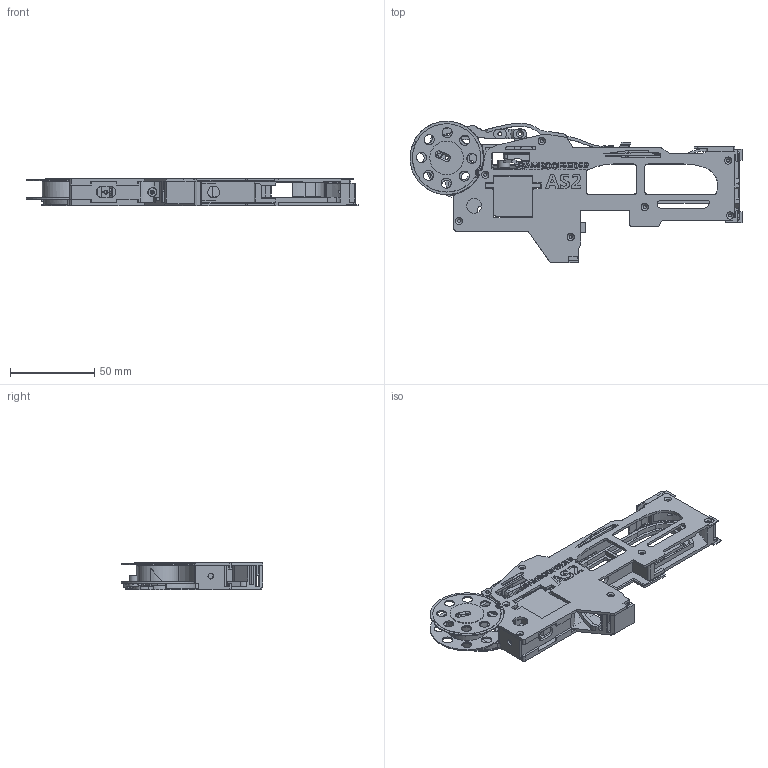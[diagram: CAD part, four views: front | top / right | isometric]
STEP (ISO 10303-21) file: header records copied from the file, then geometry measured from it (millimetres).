
FILE_DESCRIPTION (( 'STEP AP203' ), '1' );
FILE_NAME ('PPBF-AS2-12-V1.0-ASM01.STEP', '2026-03-18T04:36:17', ( '' ), ( '' ), 'SwSTEP 2.0', 'SolidWorks 2020', '' );
FILE_SCHEMA (( 'CONFIG_CONTROL_DESIGN' ));
Length unit declared in the file: millimetre
Products named in the file (16): PPBF-AS2-ServoAdvancer-V1.0; PPBF-AS2-Pushrod_12-V1.0; PPBF-AS2-Base_12-V1.0; PPBF-AS2-SpoolGear_12-V1.0; PPBF-AS2-SpoolPawlPullrodConnector-V1.0; PPBF-AS2-TopSpring-V1.0; PPBF-AS2-SpoolWasher-V1.0; PPBF-AS2-Spool_12-V1.0; ServoArm_Cut; Servo-SG90; PPBF-AS2-SpoolRing_12-V1.0; PPBF-AS2-12-V1.0-ASM01; PPBF-AS2-TopClampingPlate_12-V1.0; PPBF-AS2-LabelCard_12-V1.0; PPBF-AS2-SpoolPawlPullrod-V1.0; PPBF-AS2-Cover_12-V1.0
Assembly tree (15 placements, depth 2):
  PPBF-AS2-12-V1.0-ASM01
    PPBF-AS2-Base_12-V1.0
    PPBF-AS2-Cover_12-V1.0
    ServoArm_Cut
    Servo-SG90
    PPBF-AS2-ServoAdvancer-V1.0
    PPBF-AS2-Pushrod_12-V1.0
    PPBF-AS2-SpoolPawlPullrodConnector-V1.0
    PPBF-AS2-SpoolPawlPullrod-V1.0
    PPBF-AS2-SpoolWasher-V1.0
    PPBF-AS2-SpoolGear_12-V1.0
    PPBF-AS2-Spool_12-V1.0
    PPBF-AS2-SpoolRing_12-V1.0
    PPBF-AS2-TopSpring-V1.0
    PPBF-AS2-TopClampingPlate_12-V1.0
    PPBF-AS2-LabelCard_12-V1.0
Bounding box: 197.31 x 84.1 x 16.1 mm (x, y, z)
Volume: 57554.5 mm3; surface area: 66884 mm2
Topology: 16 solids, 16 shells, 2038 faces, 5716 edges, 3754 vertices
Faces by surface type: plane 1126, cylinder 691, bspline 104, cone 95, torus 18, sphere 4
Full cylindrical faces by diameter (mm): 1 x3, 1.75 x2, 1.8 x1, 1.85 x12, 1.9 x1, 2 x1, 2.2 x5, 2.25 x1, 2.3 x7, 2.4 x2, 3.5 x2, 3.9 x1, 4.1 x1, 4.5 x1, 5 x2, 5.2 x1, 5.3 x1, 6 x16, 6.85 x1, 7 x2, 7.2 x1, 9 x1, 12 x1, 12.838 x1, 16.038 x1, 16.8 x1, 19.9 x1, 20 x1, 24.5 x1, 43.6 x1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
Entity records: 73504 total; most frequent: CARTESIAN_POINT 19374, ORIENTED_EDGE 11170, DIRECTION 10576, EDGE_CURVE 5585, VERTEX_POINT 3723, VECTOR 3670, LINE 3670, AXIS2_PLACEMENT_3D 3453
